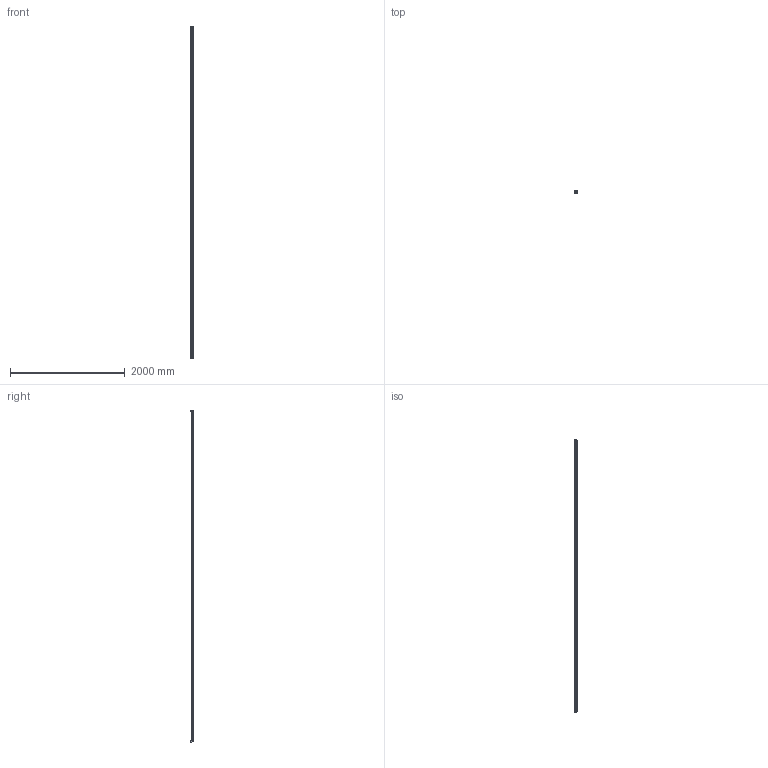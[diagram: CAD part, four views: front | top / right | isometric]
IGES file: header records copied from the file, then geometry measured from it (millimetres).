
Start section: 3D InterOp IGES (v. 2019 1.0.2), Spatial Corp. Copyright (c) 1999-2017.
Global section: file name: R1605.3_size45.igs; native system: Spatial Corp.; preprocessor: 3D InterOp GENERIC/IGES 3.0; author: Noname; organization: Noname; date: 20220629.163436; units: millimetre
Bounding box: 55 x 52.35 x 5775.3 mm (x, y, z)
Surface area: 1613196.9 mm2 (no closed solid volume)
Topology: 0 solids, 0 shells, 619 faces, 3088 edges, 3084 vertices
Faces by surface type: revolution 362, extrusion 257
